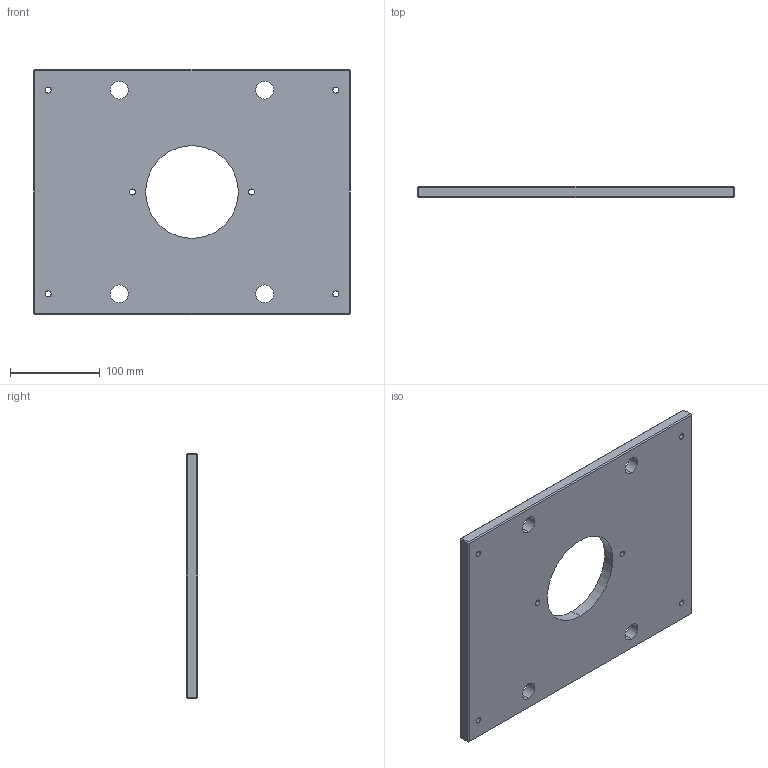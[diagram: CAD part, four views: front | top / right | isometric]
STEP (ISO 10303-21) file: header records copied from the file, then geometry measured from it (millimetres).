
FILE_DESCRIPTION (( 'STEP AP214' ), '1' );
FILE_NAME ('ME-0619-CH-1114.STEP', '2020-02-12T09:04:10', ( '' ), ( '' ), 'SwSTEP 2.0', 'SolidWorks 2018', '' );
FILE_SCHEMA (( 'AUTOMOTIVE_DESIGN' ));
Length unit declared in the file: inch
Products named in the file (1): ME-0619-CH-1114
Bounding box: 352.43 x 12.7 x 273.05 mm (x, y, z)
Volume: 1094131.8 mm3; surface area: 195572 mm2
Topology: 1 solids, 1 shells, 60 faces, 138 edges, 80 vertices
Faces by surface type: plane 26, cylinder 22, cone 12
Entity records: 1754 total; most frequent: DIRECTION 316, CARTESIAN_POINT 279, ORIENTED_EDGE 276, EDGE_CURVE 138, AXIS2_PLACEMENT_3D 117, EDGE_LOOP 82, LINE 82, VECTOR 82
